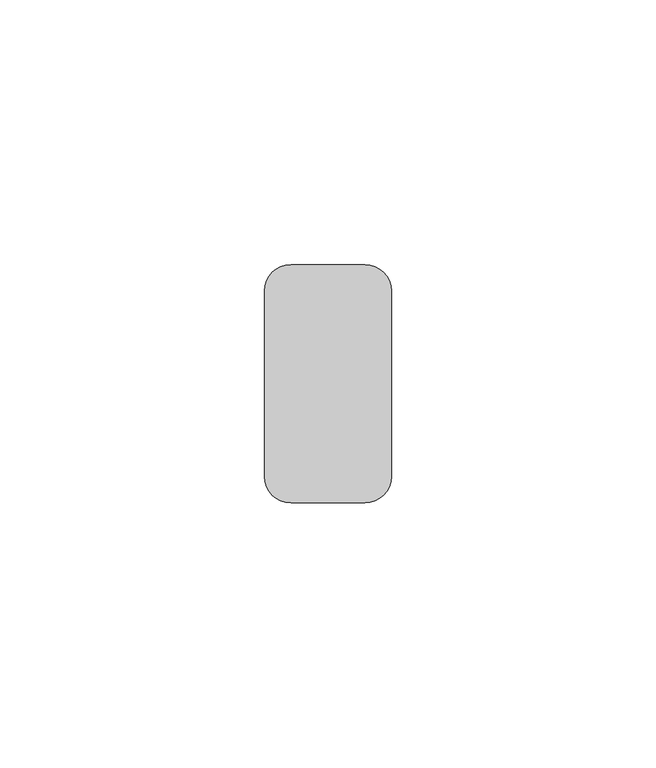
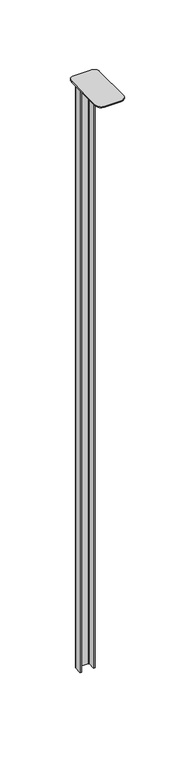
"""IFC4 building model written with IfcOpenShell, lengths in millimetres: proxy geometry, durlum_U1300 : durlum_U1300."""

from ifc_helpers import new_model, si_unit, point, frame, frame_2d, origin, place, context, project, spatial, polyline, circle_curve, trimmed, segment, composite_curve, outline, extrude, source, transform, mapped, element, save


def generic_models_96b5d85b(model_context):
    return source(origin(), model_context, "Body", "SweptSolid", [
        extrude(outline(composite_curve([segment(trimmed(circle_curve(frame_2d((7.0, -5.0)), 5.0), [point((7.0, 0.0))], [point((12.0, -5.0))], False, "CARTESIAN"), True, "CONTINUOUS"), segment(polyline([(12.0, -5.0), (12.0, -40.0)]), True, "CONTINUOUS"), segment(trimmed(circle_curve(frame_2d((7.0, -40.0)), 5.0), [point((12.0, -40.0))], [point((7.0, -45.0))], False, "CARTESIAN"), True, "CONTINUOUS"), segment(polyline([(7.0, -45.0), (-7.0, -45.0)]), True, "CONTINUOUS"), segment(trimmed(circle_curve(frame_2d((-7.0, -40.0)), 5.0), [point((-7.0, -45.0))], [point((-12.0, -40.0))], False, "CARTESIAN"), True, "CONTINUOUS"), segment(polyline([(-12.0, -40.0), (-12.0, -5.0)]), True, "CONTINUOUS"), segment(trimmed(circle_curve(frame_2d((-7.0, -5.0)), 5.0), [point((-12.0, -5.0))], [point((-7.0, 0.0))], False, "CARTESIAN"), True, "CONTINUOUS"), segment(polyline([(-7.0, 0.0), (7.0, 0.0)]), True, "CONTINUOUS")], self_intersect=False)), frame((0.0, 0.0, 1245.5875318), z_axis=(0.0, 0.0, 1.0), x_axis=(1.0, 0.0, 0.0)), (0.0, 0.0, 1.0), 1.0),
        extrude(outline(composite_curve([segment(trimmed(circle_curve(frame_2d((-4.25, -2.0)), 2.0), [point((-6.25, -2.0))], [point((-4.25, 0.0))], False, "CARTESIAN"), True, "CONTINUOUS"), segment(polyline([(-4.25, 0.0), (4.25, 0.0)]), True, "CONTINUOUS"), segment(trimmed(circle_curve(frame_2d((4.25, -2.0)), 2.0), [point((4.25, 0.0))], [point((6.25, -2.0))], False, "CARTESIAN"), True, "CONTINUOUS"), segment(polyline([(6.25, -2.0), (6.25, -8.0), (5.25, -8.0), (5.25, -2.0)]), True, "CONTINUOUS"), segment(trimmed(circle_curve(frame_2d((4.25, -2.0)), 1.0), [point((5.25, -2.0))], [point((4.25, -1.0))], True, "CARTESIAN"), True, "CONTINUOUS"), segment(polyline([(4.25, -1.0), (-4.25, -1.0)]), True, "CONTINUOUS"), segment(trimmed(circle_curve(frame_2d((-4.25, -2.0)), 1.0), [point((-4.25, -1.0))], [point((-5.25, -2.0))], True, "CARTESIAN"), True, "CONTINUOUS"), segment(polyline([(-5.25, -2.0), (-5.25, -8.0), (-6.25, -8.0), (-6.25, -2.0)]), True, "CONTINUOUS")], self_intersect=False)), frame((0.0, 0.0, 716.5875318), z_axis=(0.0, 0.0, 1.0), x_axis=(1.0, 0.0, 0.0)), (0.0, 0.0, 1.0), 529.0),
    ])


if __name__ == "__main__":
    model = new_model("IFC4")
    model_context = context("Model", 3, world=origin())
    ifc_project = project(units=[si_unit("LENGTHUNIT", "METRE", prefix="MILLI")], contexts=[model_context])
    site = spatial("IfcSite", under=ifc_project)
    building = spatial("IfcBuilding", under=site)
    placement = place(None, origin())
    generic_models_shape = generic_models_96b5d85b(model_context)
    element("IfcBuildingElementProxy", 1, Name="durlum_U1300 : durlum_U1300", ObjectType="durlum_U1300 : durlum_U1300", at=placement, inside=building, context=model_context, shape_type="MappedRepresentation", body=[
        mapped(generic_models_shape, transform((0.0, 0.0, 0.0), x_axis=(1.0, 0.0, 0.0), y_axis=(0.0, 1.0, 0.0), z_axis=(0.0, 0.0, 1.0))),
    ])
    save(model, "model.ifc")
